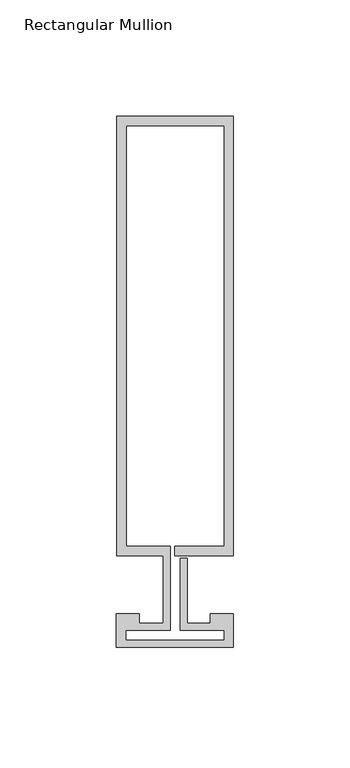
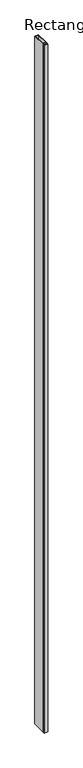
"""IFC4 building model written with IfcOpenShell, lengths in millimetres: member geometry, Rectangular Mullion : Reynaers_CW-50_Mullion-Transom_Vertical_188.5mm_Facecap-02A."""

import ifcopenshell
import ifcopenshell.guid

model = None  # the IFC model being written
_history = None  # IfcOwnerHistory: only IFC2X3 demands one
_inside = {}  # id of a spatial element -> (the spatial element, [elements in it])
_under = {}  # id of a project, library or spatial element -> (it, [spatial elements below it])
_declared = {}  # id of a project -> (the project, [libraries it declares])
_typed = {}  # id of a type object -> (the type object, [elements of that type])
_made_of = {}  # id of a material, layer set ... -> (it, [elements and type objects made of it])


def new_model(schema):
    """Start an empty IFC model of exactly this schema.

    Asked for "IFC4X3", IfcOpenShell would pick the latest addendum, in which some entities
    have other attributes; the version numbers below select the first issue.
    IFC2X3 requires an IfcOwnerHistory on every rooted entity: one is made here for all.
    """
    global model, _history
    if schema == "IFC4X3":
        model = ifcopenshell.file(schema_version=(4, 3, 0, 0))
    else:
        model = ifcopenshell.file(schema=schema)
    _inside.clear()
    _under.clear()
    _declared.clear()
    _typed.clear()
    _made_of.clear()
    _history = None
    if model.schema == "IFC2X3":
        org = make("IfcOrganization", Name="unknown")
        user = make(
            "IfcPersonAndOrganization",
            ThePerson=make("IfcPerson", FamilyName="unknown"),
            TheOrganization=org,
        )
        app = make(
            "IfcApplication",
            ApplicationDeveloper=org,
            Version="unknown",
            ApplicationFullName="unknown",
            ApplicationIdentifier="unknown",
        )
        _history = make(
            "IfcOwnerHistory",
            OwningUser=user,
            OwningApplication=app,
            ChangeAction="ADDED",
            CreationDate=0,
        )
    return model


def make(cls, **values):
    """One entity of the class cls with the attributes given. An attribute that is None is left unset."""
    return model.create_entity(
        cls, **{name: value for name, value in values.items() if value is not None}
    )


def rooted(cls, **values):
    """An entity with a GlobalId (a new one), such as an element, a storey or a relation."""
    return make(cls, GlobalId=ifcopenshell.guid.new(), OwnerHistory=_history, **values)


def si_unit(unit_type, name, prefix=None):
    """IfcSIUnit, for example si_unit("LENGTHUNIT", "METRE", prefix="MILLI")."""
    return make("IfcSIUnit", UnitType=unit_type, Prefix=prefix, Name=name)


def assignment(units):
    """IfcUnitAssignment: the units of a project."""
    return None if units is None else make("IfcUnitAssignment", Units=units)


def point(xyz):
    """IfcCartesianPoint."""
    return None if xyz is None else make("IfcCartesianPoint", Coordinates=xyz)


def direction(xyz):
    """IfcDirection."""
    return None if xyz is None else make("IfcDirection", DirectionRatios=xyz)


def frame(location, z_axis=None, x_axis=None):
    """IfcAxis2Placement3D, a coordinate frame: its origin and axes. An axis left out is left unset."""
    return make(
        "IfcAxis2Placement3D",
        Location=point(location),
        Axis=direction(z_axis),
        RefDirection=direction(x_axis),
    )


def origin():
    """The frame at (0, 0, 0) with its axes left unset."""
    return frame((0.0, 0.0, 0.0))


def place(relative_to, where):
    """IfcLocalPlacement: puts the frame where relative to a parent placement (None: the world)."""
    return make(
        "IfcLocalPlacement", PlacementRelTo=relative_to, RelativePlacement=where
    )


def context(
    kind, dimensions, precision=None, world=None, true_north=None, identifier=None
):
    """IfcGeometricRepresentationContext, for example the 3D "Model" context."""
    return make(
        "IfcGeometricRepresentationContext",
        ContextIdentifier=identifier,
        ContextType=kind,
        CoordinateSpaceDimension=dimensions,
        Precision=precision,
        WorldCoordinateSystem=world,
        TrueNorth=true_north,
    )


def project(units=None, contexts=None):
    """IfcProject with its units and contexts."""
    return rooted(
        "IfcProject",
        Name="project",
        RepresentationContexts=contexts,
        UnitsInContext=assignment(units),
    )


def spatial(cls, under=None, at=None, **own):
    """A site, building, storey or space (cls), placed at a placement, below another one or the project."""
    s = rooted(cls, ObjectPlacement=at, **own)
    if under is not None:
        _under.setdefault(under.id(), (under, []))[1].append(s)
    return s


def polyline(points):
    """IfcPolyline through the points."""
    return make("IfcPolyline", Points=[point(p) for p in points])


def outline(outer, holes=None, kind="AREA"):
    """IfcArbitraryClosedProfileDef: a profile drawn as a closed curve; with holes, ...WithVoids."""
    if holes is None:
        return make("IfcArbitraryClosedProfileDef", ProfileType=kind, OuterCurve=outer)
    return make(
        "IfcArbitraryProfileDefWithVoids",
        ProfileType=kind,
        OuterCurve=outer,
        InnerCurves=holes,
    )


def extrude(swept, where, along, depth):
    """IfcExtrudedAreaSolid: the profile swept, set in the frame where, extruded along a direction by depth."""
    return make(
        "IfcExtrudedAreaSolid",
        SweptArea=swept,
        Position=where,
        ExtrudedDirection=direction(along),
        Depth=depth,
    )


def shape(context_of_items, identifier, shape_type, items):
    """IfcShapeRepresentation: the items that make up one representation, for example the "Body"."""
    return make(
        "IfcShapeRepresentation",
        ContextOfItems=context_of_items,
        RepresentationIdentifier=identifier,
        RepresentationType=shape_type,
        Items=items,
    )


def source(mapping_origin, context_of_items, identifier, shape_type, items):
    """IfcRepresentationMap: a shape defined once, which mapped items show again and again."""
    return make(
        "IfcRepresentationMap",
        MappingOrigin=mapping_origin,
        MappedRepresentation=shape(context_of_items, identifier, shape_type, items),
    )


def transform(
    local_origin,
    x_axis=None,
    y_axis=None,
    z_axis=None,
    scale=None,
    scale2=None,
    scale3=None,
    uniform=True,
):
    """IfcCartesianTransformationOperator3D, or its non-uniform kind. x_axis, y_axis, z_axis: its Axis1, 2, 3."""
    if uniform:
        return make(
            "IfcCartesianTransformationOperator3D",
            Axis1=direction(x_axis),
            Axis2=direction(y_axis),
            LocalOrigin=point(local_origin),
            Scale=scale,
            Axis3=direction(z_axis),
        )
    return make(
        "IfcCartesianTransformationOperator3DnonUniform",
        Axis1=direction(x_axis),
        Axis2=direction(y_axis),
        LocalOrigin=point(local_origin),
        Scale=scale,
        Axis3=direction(z_axis),
        Scale2=scale2,
        Scale3=scale3,
    )


def mapped(mapping_source, mapping_target):
    """IfcMappedItem: shows the shape of a source again, moved by a transform."""
    return make(
        "IfcMappedItem", MappingSource=mapping_source, MappingTarget=mapping_target
    )


def made_of(thing, what):
    """Note that an element or type object is made of a material, layer set ...; save() writes the relation."""
    if what is not None:
        _made_of.setdefault(what.id(), (what, []))[1].append(thing)
    return thing


def element(
    cls,
    number,
    at=None,
    inside=None,
    cuts=None,
    type_object=None,
    material=None,
    context=None,
    identifier="Body",
    shape_type=None,
    held_by="IfcProductDefinitionShape",
    body=None,
    shapes=None,
    **own,
):
    """One element of the class cls, such as IfcWall. Its Tag is "e" and its number.

    at: its placement. inside: the storey or other place that contains it. cuts: it is an
    opening in that element (IfcRelVoidsElement). A single representation is given by context,
    identifier, shape_type and body (its items); several are given by shapes. held_by: the class
    of the entity that holds the representations. save() writes the other relations.
    """
    e = rooted(cls, Tag="e%d" % number, ObjectPlacement=at, **own)
    if body is not None:
        shapes = [shape(context, identifier, shape_type, body)]
    if shapes is not None:
        e.Representation = make(held_by, Representations=shapes)
    if inside is not None:
        _inside.setdefault(inside.id(), (inside, []))[1].append(e)
    if cuts is not None:
        rooted(
            "IfcRelVoidsElement", RelatingBuildingElement=cuts, RelatedOpeningElement=e
        )
    if type_object is not None:
        _typed.setdefault(type_object.id(), (type_object, []))[1].append(e)
    return made_of(e, material)


def aggregate(whole, parts):
    """IfcRelAggregates: a whole, such as a stair, and the parts it consists of."""
    return rooted("IfcRelAggregates", RelatingObject=whole, RelatedObjects=parts)


def save(model, path):
    """Write the relations noted so far, then the file.

    IfcRelAggregates (storeys below a building ...), IfcRelContainedInSpatialStructure (elements
    in a storey), IfcRelDefinesByType, IfcRelAssociatesMaterial and IfcRelDeclares: one each for
    every whole, place, type object, material and project.
    """
    for whole, parts in _under.values():
        aggregate(whole, parts)
    for where, things in _inside.values():
        rooted(
            "IfcRelContainedInSpatialStructure",
            RelatedElements=things,
            RelatingStructure=where,
        )
    for kind, things in _typed.values():
        rooted("IfcRelDefinesByType", RelatedObjects=things, RelatingType=kind)
    for what, things in _made_of.values():
        rooted("IfcRelAssociatesMaterial", RelatedObjects=things, RelatingMaterial=what)
    for by, libraries in _declared.values():
        rooted("IfcRelDeclares", RelatingContext=by, RelatedDefinitions=libraries)
    model.write(path)


def rectangular_mullion_2822aa4c(model_context):
    return source(origin(), model_context, "Body", "SweptSolid", [
        extrude(outline(polyline([(-24.8004059, 201.0), (25.1995941, 201.0), (25.1995941, 12.5), (0.0, 12.5), (0.0, 16.5), (21.1995941, 16.5), (21.1995941, 197.0), (-20.8004059, 197.0), (-20.8004059, 16.5), (-1.9004059, 16.5), (-1.9004059, -19.5), (-20.994845, -19.5), (-20.994845, -23.7191338), (21.1995941, -23.7191338), (21.1995941, -19.5), (2.2995941, -19.5), (2.2995941, 11.5), (5.2995941, 11.5), (5.2995941, -16.5), (15.2996495, -16.5), (15.2996495, -12.5), (25.1995941, -12.5), (25.1995941, -26.8), (-24.994845, -26.8), (-24.994845, -12.5), (-15.2996495, -12.5), (-15.2996495, -16.5), (-4.9004059, -16.5), (-4.9004059, 12.5), (-24.8004059, 12.5), (-24.8004059, 201.0)])), frame((0.0, 0.0, -10400.0), z_axis=(0.0, 0.0, 1.0), x_axis=(1.0, 0.0, 0.0)), (0.0, 0.0, 1.0), 10400.0),
    ])


if __name__ == "__main__":
    model = new_model("IFC4")
    model_context = context("Model", 3, world=origin())
    ifc_project = project(units=[si_unit("LENGTHUNIT", "METRE", prefix="MILLI")], contexts=[model_context])
    site = spatial("IfcSite", under=ifc_project)
    building = spatial("IfcBuilding", under=site)
    placement = place(None, origin())
    rectangular_mullion_shape = rectangular_mullion_2822aa4c(model_context)
    element("IfcMember", 1, ObjectType="Rectangular Mullion : Reynaers_CW-50_Mullion-Transom_Vertical_188.5mm_Facecap-02A", at=placement, inside=building, context=model_context, shape_type="MappedRepresentation", body=[
        mapped(rectangular_mullion_shape, transform((0.0, 0.0, 0.0), x_axis=(1.0, 0.0, 0.0), y_axis=(0.0, 1.0, 0.0), z_axis=(0.0, 0.0, 1.0))),
    ])
    save(model, "model.ifc")
